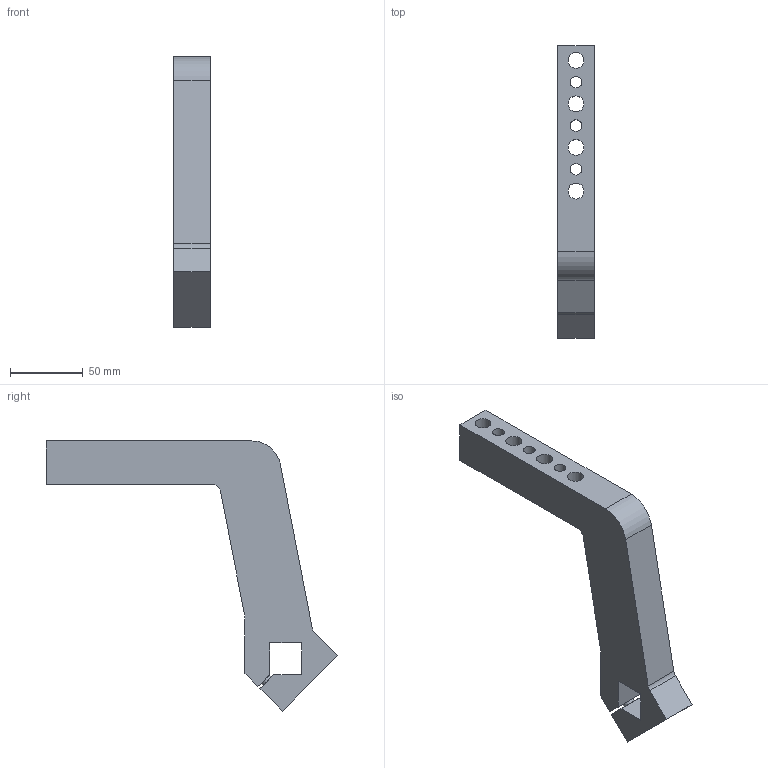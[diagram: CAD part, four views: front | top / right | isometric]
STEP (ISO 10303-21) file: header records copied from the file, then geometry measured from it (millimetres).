
FILE_DESCRIPTION(/* description */ (''),/* implementation_level */ '2;1');
FILE_NAME(/* name */ 'C:\PNX_VAULTFOLDER\Area Tecnica\Disegni\VARIE-3D\Componenti\7000\QNACA###M\QNACA044M.stp',/* time_stamp */ '2018-10-18T14:53:57+02:00',/* author */ ('donadda1'),/* organization */ ('Pneumax S.p.A.'),/* preprocessor_version */ 'ST-DEVELOPER v17',/* originating_system */ 'Autodesk Inventor 2019',/* authorisation */ '');
FILE_SCHEMA (('AUTOMOTIVE_DESIGN { 1 0 10303 214 3 1 1 }'));
Length unit declared in the file: millimetre
Products named in the file (1): QNACA044M
Bounding box: 25 x 201.06 x 186.06 mm (x, y, z)
Volume: 262553.6 mm3; surface area: 47279.2 mm2
Topology: 1 solids, 1 shells, 30 faces, 84 edges, 56 vertices
Faces by surface type: plane 18, cylinder 12
Full cylindrical faces by diameter (mm): 8 x4, 11 x4
Entity records: 1043 total; most frequent: CARTESIAN_POINT 171, DIRECTION 170, ORIENTED_EDGE 168, EDGE_CURVE 84, LINE 60, VECTOR 60, VERTEX_POINT 56, AXIS2_PLACEMENT_3D 55
